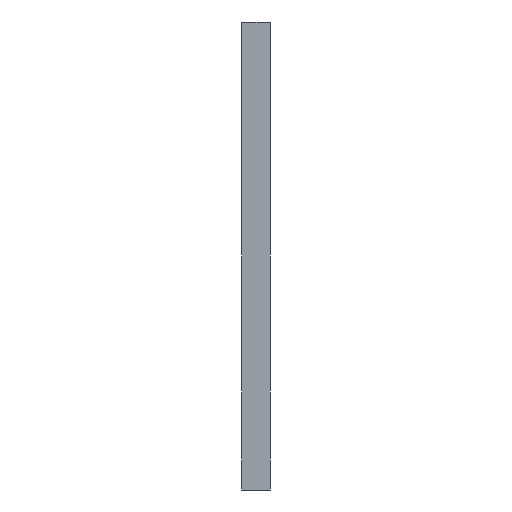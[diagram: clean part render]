
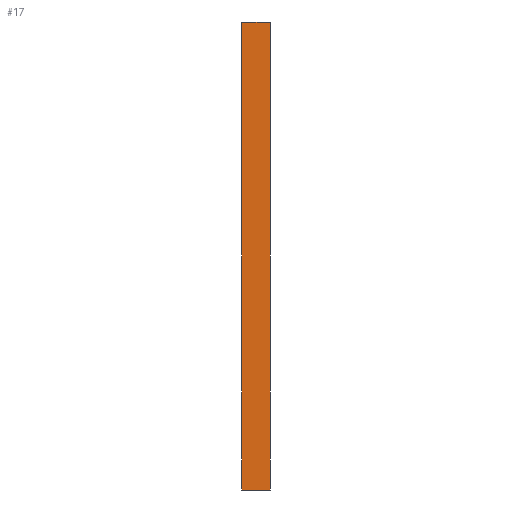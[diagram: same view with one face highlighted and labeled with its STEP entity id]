
A CAD part, left-side view. The second image highlights one B-rep face of the part: STEP entity #17.
In plain terms, the highlighted planar face has unit normal (-1, 0, 0).
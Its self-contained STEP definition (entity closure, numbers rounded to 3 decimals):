
#17 = ADVANCED_FACE('',(#18),#32,.F.);
#18 = FACE_BOUND('',#19,.F.);
#19 = EDGE_LOOP('',(#20,#55,#83,#111));
#20 = ORIENTED_EDGE('',*,*,#21,.F.);
#21 = EDGE_CURVE('',#22,#24,#26,.T.);
#22 = VERTEX_POINT('',#23);
#23 = CARTESIAN_POINT('',(-23.,-24.4,-53.));
#24 = VERTEX_POINT('',#25);
#25 = CARTESIAN_POINT('',(-23.,-24.4,-13.));
#26 = SURFACE_CURVE('',#27,(#31,#43),.PCURVE_S1.);
#27 = LINE('',#28,#29);
#28 = CARTESIAN_POINT('',(-23.,-24.4,-53.));
#29 = VECTOR('',#30,1.);
#30 = DIRECTION('',(0.,0.,1.));
#31 = PCURVE('',#32,#37);
#32 = PLANE('',#33);
#33 = AXIS2_PLACEMENT_3D('',#34,#35,#36);
#34 = CARTESIAN_POINT('',(-23.,-24.4,-53.));
#35 = DIRECTION('',(1.,0.,0.));
#36 = DIRECTION('',(0.,0.,1.));
#37 = DEFINITIONAL_REPRESENTATION('',(#38),#42);
#38 = LINE('',#39,#40);
#39 = CARTESIAN_POINT('',(0.,0.));
#40 = VECTOR('',#41,1.);
#41 = DIRECTION('',(1.,0.));
#42 = ( GEOMETRIC_REPRESENTATION_CONTEXT(2) 
PARAMETRIC_REPRESENTATION_CONTEXT() REPRESENTATION_CONTEXT('2D SPACE',''
  ) );
#43 = PCURVE('',#44,#49);
#44 = PLANE('',#45);
#45 = AXIS2_PLACEMENT_3D('',#46,#47,#48);
#46 = CARTESIAN_POINT('',(-23.,-24.4,-53.));
#47 = DIRECTION('',(0.,1.,0.));
#48 = DIRECTION('',(0.,-0.,1.));
#49 = DEFINITIONAL_REPRESENTATION('',(#50),#54);
#50 = LINE('',#51,#52);
#51 = CARTESIAN_POINT('',(0.,0.));
#52 = VECTOR('',#53,1.);
#53 = DIRECTION('',(1.,0.));
#54 = ( GEOMETRIC_REPRESENTATION_CONTEXT(2) 
PARAMETRIC_REPRESENTATION_CONTEXT() REPRESENTATION_CONTEXT('2D SPACE',''
  ) );
#55 = ORIENTED_EDGE('',*,*,#56,.T.);
#56 = EDGE_CURVE('',#22,#57,#59,.T.);
#57 = VERTEX_POINT('',#58);
#58 = CARTESIAN_POINT('',(-23.,-22.,-53.));
#59 = SURFACE_CURVE('',#60,(#64,#71),.PCURVE_S1.);
#60 = LINE('',#61,#62);
#61 = CARTESIAN_POINT('',(-23.,-24.4,-53.));
#62 = VECTOR('',#63,1.);
#63 = DIRECTION('',(0.,1.,0.));
#64 = PCURVE('',#32,#65);
#65 = DEFINITIONAL_REPRESENTATION('',(#66),#70);
#66 = LINE('',#67,#68);
#67 = CARTESIAN_POINT('',(0.,0.));
#68 = VECTOR('',#69,1.);
#69 = DIRECTION('',(0.,-1.));
#70 = ( GEOMETRIC_REPRESENTATION_CONTEXT(2) 
PARAMETRIC_REPRESENTATION_CONTEXT() REPRESENTATION_CONTEXT('2D SPACE',''
  ) );
#71 = PCURVE('',#72,#77);
#72 = PLANE('',#73);
#73 = AXIS2_PLACEMENT_3D('',#74,#75,#76);
#74 = CARTESIAN_POINT('',(-23.,-24.4,-53.));
#75 = DIRECTION('',(0.,0.,1.));
#76 = DIRECTION('',(1.,0.,-0.));
#77 = DEFINITIONAL_REPRESENTATION('',(#78),#82);
#78 = LINE('',#79,#80);
#79 = CARTESIAN_POINT('',(0.,0.));
#80 = VECTOR('',#81,1.);
#81 = DIRECTION('',(0.,1.));
#82 = ( GEOMETRIC_REPRESENTATION_CONTEXT(2) 
PARAMETRIC_REPRESENTATION_CONTEXT() REPRESENTATION_CONTEXT('2D SPACE',''
  ) );
#83 = ORIENTED_EDGE('',*,*,#84,.T.);
#84 = EDGE_CURVE('',#57,#85,#87,.T.);
#85 = VERTEX_POINT('',#86);
#86 = CARTESIAN_POINT('',(-23.,-22.,-13.));
#87 = SURFACE_CURVE('',#88,(#92,#99),.PCURVE_S1.);
#88 = LINE('',#89,#90);
#89 = CARTESIAN_POINT('',(-23.,-22.,-53.));
#90 = VECTOR('',#91,1.);
#91 = DIRECTION('',(0.,0.,1.));
#92 = PCURVE('',#32,#93);
#93 = DEFINITIONAL_REPRESENTATION('',(#94),#98);
#94 = LINE('',#95,#96);
#95 = CARTESIAN_POINT('',(0.,-2.4));
#96 = VECTOR('',#97,1.);
#97 = DIRECTION('',(1.,0.));
#98 = ( GEOMETRIC_REPRESENTATION_CONTEXT(2) 
PARAMETRIC_REPRESENTATION_CONTEXT() REPRESENTATION_CONTEXT('2D SPACE',''
  ) );
#99 = PCURVE('',#100,#105);
#100 = PLANE('',#101);
#101 = AXIS2_PLACEMENT_3D('',#102,#103,#104);
#102 = CARTESIAN_POINT('',(-23.,-22.,-53.));
#103 = DIRECTION('',(0.,1.,0.));
#104 = DIRECTION('',(0.,-0.,1.));
#105 = DEFINITIONAL_REPRESENTATION('',(#106),#110);
#106 = LINE('',#107,#108);
#107 = CARTESIAN_POINT('',(0.,0.));
#108 = VECTOR('',#109,1.);
#109 = DIRECTION('',(1.,0.));
#110 = ( GEOMETRIC_REPRESENTATION_CONTEXT(2) 
PARAMETRIC_REPRESENTATION_CONTEXT() REPRESENTATION_CONTEXT('2D SPACE',''
  ) );
#111 = ORIENTED_EDGE('',*,*,#112,.F.);
#112 = EDGE_CURVE('',#24,#85,#113,.T.);
#113 = SURFACE_CURVE('',#114,(#118,#125),.PCURVE_S1.);
#114 = LINE('',#115,#116);
#115 = CARTESIAN_POINT('',(-23.,-24.4,-13.));
#116 = VECTOR('',#117,1.);
#117 = DIRECTION('',(0.,1.,0.));
#118 = PCURVE('',#32,#119);
#119 = DEFINITIONAL_REPRESENTATION('',(#120),#124);
#120 = LINE('',#121,#122);
#121 = CARTESIAN_POINT('',(40.,0.));
#122 = VECTOR('',#123,1.);
#123 = DIRECTION('',(0.,-1.));
#124 = ( GEOMETRIC_REPRESENTATION_CONTEXT(2) 
PARAMETRIC_REPRESENTATION_CONTEXT() REPRESENTATION_CONTEXT('2D SPACE',''
  ) );
#125 = PCURVE('',#126,#131);
#126 = PLANE('',#127);
#127 = AXIS2_PLACEMENT_3D('',#128,#129,#130);
#128 = CARTESIAN_POINT('',(-23.,-24.4,-13.));
#129 = DIRECTION('',(0.,0.,1.));
#130 = DIRECTION('',(1.,0.,-0.));
#131 = DEFINITIONAL_REPRESENTATION('',(#132),#136);
#132 = LINE('',#133,#134);
#133 = CARTESIAN_POINT('',(0.,0.));
#134 = VECTOR('',#135,1.);
#135 = DIRECTION('',(0.,1.));
#136 = ( GEOMETRIC_REPRESENTATION_CONTEXT(2) 
PARAMETRIC_REPRESENTATION_CONTEXT() REPRESENTATION_CONTEXT('2D SPACE',''
  ) );
